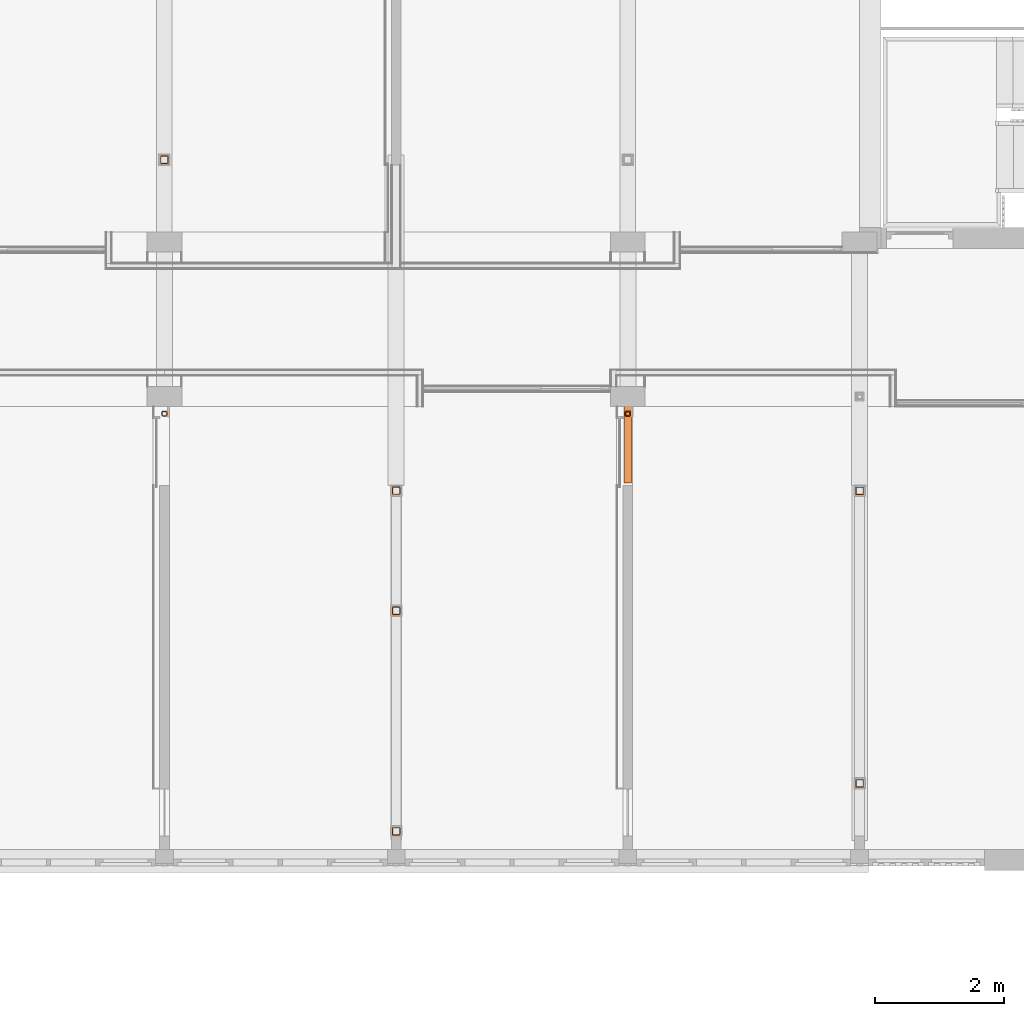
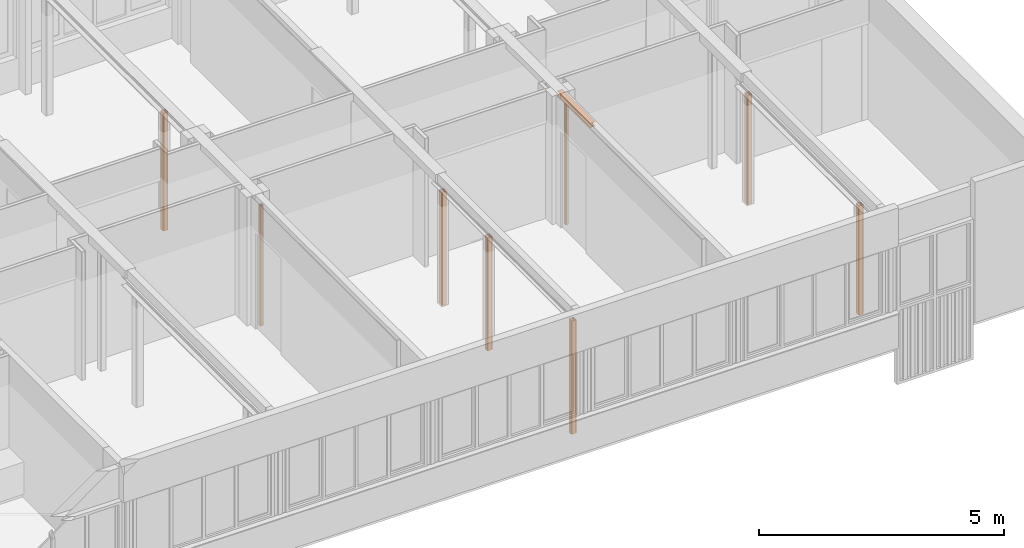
# One storey, part 106 of 117: 9 proxies.
"""IFC2X3 building model written with IfcOpenShell, lengths in millimetres."""

from ifc_helpers import new_model, entity, si_unit, converted_unit, derived_unit, money_unit, direction, frame, origin_with_axes, place, context, subcontext, project, spatial, faceted_brep, source, transform, mapped, material, type_object, type_shapes, element, save


model = new_model("IFC2X3")

# Units and contexts
model_context = context("Model", 3, precision=0.01, world=origin_with_axes(), true_north=direction((0.0, 1.0)))
body_context = subcontext(model_context, "Body", "Model", "MODEL_VIEW")
ifc_project = project(units=[si_unit("LENGTHUNIT", "METRE", prefix="MILLI"), si_unit("AREAUNIT", "SQUARE_METRE"), si_unit("VOLUMEUNIT", "CUBIC_METRE"), converted_unit("PLANEANGLEUNIT", "DEGREE", entity("IfcPlaneAngleMeasure", 0.0174532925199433), si_unit("PLANEANGLEUNIT", "RADIAN"), dimensions=[0, 0, 0, 0, 0, 0, 0]), money_unit("EUR"), converted_unit("TIMEUNIT", "Year", entity("IfcTimeMeasure", 31557600.0), si_unit("TIMEUNIT", "SECOND"), dimensions=[0, 0, 1, 0, 0, 0, 0]), si_unit("MASSUNIT", "GRAM", prefix="KILO"), si_unit("THERMODYNAMICTEMPERATUREUNIT", "DEGREE_CELSIUS"), si_unit("LUMINOUSINTENSITYUNIT", "LUMEN"), si_unit("ENERGYUNIT", "JOULE", prefix="MEGA"), derived_unit("THERMALCONDUCTANCEUNIT", [(si_unit("POWERUNIT", "WATT"), 1), (si_unit("LENGTHUNIT", "METRE"), -1), (si_unit("THERMODYNAMICTEMPERATUREUNIT", "KELVIN"), -1)]), derived_unit("SPECIFICHEATCAPACITYUNIT", [(si_unit("ENERGYUNIT", "JOULE"), 1), (si_unit("MASSUNIT", "GRAM", prefix="KILO"), -1), (si_unit("THERMODYNAMICTEMPERATUREUNIT", "KELVIN"), -1)]), derived_unit("MASSDENSITYUNIT", [(si_unit("MASSUNIT", "GRAM", prefix="KILO"), 1), (si_unit("VOLUMEUNIT", "CUBIC_METRE"), -1)])], contexts=[model_context])

# Site, building, storey
site_placement = place(None, origin_with_axes())
site = spatial("IfcSite", under=ifc_project, at=site_placement, Name="Site", CompositionType="ELEMENT")
building_placement = place(site_placement, origin_with_axes())
building = spatial("IfcBuilding", under=site, at=building_placement, Name="Naam gebouw", CompositionType="ELEMENT")
storey_placement = place(building_placement, frame((0.0, 0.0, 4150.0), z_axis=(0.0, 0.0, 1.0), x_axis=(1.0, 0.0, 0.0)))
storey = spatial("IfcBuildingStorey", under=building, at=storey_placement, Name="1e verdieping N", CompositionType="ELEMENT", Elevation=4150.0)

# Proxies
ifc_material = material(Name="Metaal - Staal AFW")
building_element_proxy_type_1 = type_object("IfcBuildingElementProxyType", Name="Buis vk warmgew kolom 27", PredefinedType="NOTDEFINED")
shared_shape_1 = source(origin_with_axes(), body_context, "Body", "Brep", [
    faceted_brep([(24.0, -40.0, 0.0), (24.0, -40.0, 3000.0), (-24.0, -40.0, 3000.0), (-24.0, -40.0, 0.0), (35.31370849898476, -35.31370849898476, 0.0), (35.31370849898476, -35.31370849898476, 3000.0), (40.0, -24.0, 3000.0), (40.00000000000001, 24.0, 3000.0), (35.31370849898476, 35.31370849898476, 3000.0), (24.0, 40.0, 3000.0), (-24.0, 40.00000000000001, 3000.0), (-35.31370849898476, 35.31370849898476, 3000.0), (-40.0, 24.0, 3000.0), (-40.0, -24.0, 3000.0), (-35.31370849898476, -35.31370849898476, 3000.0), (24.0, -32.0, 3000.0), (-24.0, -32.0, 3000.0), (-29.65685424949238, -29.65685424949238, 3000.0), (-32.0, -24.0, 3000.0), (-32.0, 24.0, 3000.0), (-29.65685424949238, 29.65685424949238, 3000.0), (-24.0, 32.0, 3000.0), (24.0, 32.0, 3000.0), (29.65685424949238, 29.65685424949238, 3000.0), (32.0, 24.0, 3000.0), (32.0, -24.0, 3000.0), (29.65685424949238, -29.65685424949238, 3000.0), (-35.31370849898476, -35.31370849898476, 0.0), (-40.0, -24.0, 0.0), (-40.0, 24.0, 0.0), (-35.31370849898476, 35.31370849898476, 0.0), (-24.0, 40.00000000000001, 0.0), (24.0, 40.0, 0.0), (35.31370849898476, 35.31370849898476, 0.0), (40.00000000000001, 24.0, 0.0), (40.0, -24.0, 0.0), (24.0, -32.0, 0.0), (29.65685424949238, -29.65685424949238, 0.0), (32.0, -24.0, 0.0), (32.0, 24.0, 0.0), (29.65685424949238, 29.65685424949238, 0.0), (24.0, 32.0, 0.0), (-24.0, 32.0, 0.0), (-29.65685424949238, 29.65685424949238, 0.0), (-32.0, 24.0, 0.0), (-32.0, -24.0, 0.0), (-29.65685424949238, -29.65685424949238, 0.0), (-24.0, -32.0, 0.0)], [[[0, 1, 2, 3]], [[4, 5, 1, 0]], [[1, 5, 6, 7, 8, 9, 10, 11, 12, 13, 14, 2], [15, 16, 17, 18, 19, 20, 21, 22, 23, 24, 25, 26]], [[3, 2, 14, 27]], [[0, 3, 27, 28, 29, 30, 31, 32, 33, 34, 35, 4], [36, 37, 38, 39, 40, 41, 42, 43, 44, 45, 46, 47]], [[35, 6, 5, 4]], [[34, 7, 6, 35]], [[33, 8, 7, 34]], [[32, 9, 8, 33]], [[31, 10, 9, 32]], [[30, 11, 10, 31]], [[29, 12, 11, 30]], [[28, 13, 12, 29]], [[27, 14, 13, 28]], [[47, 16, 15, 36]], [[46, 17, 16, 47]], [[45, 18, 17, 46]], [[44, 19, 18, 45]], [[43, 20, 19, 44]], [[42, 21, 20, 43]], [[41, 22, 21, 42]], [[40, 23, 22, 41]], [[39, 24, 23, 40]], [[38, 25, 24, 39]], [[37, 26, 25, 38]], [[36, 15, 26, 37]]]),
])
for number, where, z_axis, x_axis, name in (
    (1, (50399.99999999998, 17760.91242510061, 0.0), (0.0, 0.0, 1.0), (0.0, -1.0, 0.0), "_Boom-x"),
    (2, (43199.99999999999, 17760.91242510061, 0.0), (0.0, 0.0, 1.0), (0.0, -1.0, 0.0), "_Boom-x"),
):
    element("IfcBuildingElementProxy", number, at=place(storey_placement, frame(where, z_axis=z_axis, x_axis=x_axis)), inside=storey, type_object=building_element_proxy_type_1, material=ifc_material, Name=name, context=body_context, shape_type="MappedRepresentation", body=[
        mapped(shared_shape_1, transform((0.0, 0.0, 0.0))),
    ])
shared_shape_2 = source(origin_with_axes(), body_context, "Body", "Brep", [
    faceted_brep([(47.4, -60.0, 0.0), (47.4, -60.0, 2720.0), (-47.4, -60.0, 2720.0), (-47.4, -60.0, 0.0), (56.3095454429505, -56.3095454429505, 0.0), (56.3095454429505, -56.3095454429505, 2720.0), (60.0, -47.4, 2720.0), (60.0, 47.4, 2720.0), (56.3095454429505, 56.3095454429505, 2720.0), (47.4, 60.0, 2720.0), (-47.4, 60.0, 2720.0), (-56.3095454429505, 56.3095454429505, 2720.0), (-60.0, 47.4, 2720.0), (-60.0, -47.4, 2720.0), (-56.3095454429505, -56.3095454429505, 2720.0), (47.4, -53.7, 2720.0), (-47.4, -53.7, 2720.0), (-51.85477272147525, -51.85477272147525, 2720.0), (-53.7, -47.4, 2720.0), (-53.7, 47.4, 2720.0), (-51.85477272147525, 51.85477272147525, 2720.0), (-47.4, 53.7, 2720.0), (47.4, 53.7, 2720.0), (51.85477272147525, 51.85477272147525, 2720.0), (53.7, 47.4, 2720.0), (53.7, -47.4, 2720.0), (51.85477272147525, -51.85477272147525, 2720.0), (-56.3095454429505, -56.3095454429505, 0.0), (-60.0, -47.4, 0.0), (-60.0, 47.4, 0.0), (-56.3095454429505, 56.3095454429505, 0.0), (-47.4, 60.0, 0.0), (47.4, 60.0, 0.0), (56.3095454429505, 56.3095454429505, 0.0), (60.0, 47.4, 0.0), (60.0, -47.4, 0.0), (47.4, -53.7, 0.0), (51.85477272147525, -51.85477272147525, 0.0), (53.7, -47.4, 0.0), (53.7, 47.4, 0.0), (51.85477272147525, 51.85477272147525, 0.0), (47.4, 53.7, 0.0), (-47.4, 53.7, 0.0), (-51.85477272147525, 51.85477272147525, 0.0), (-53.7, 47.4, 0.0), (-53.7, -47.4, 0.0), (-51.85477272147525, -51.85477272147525, 0.0), (-47.4, -53.7, 0.0)], [[[0, 1, 2, 3]], [[4, 5, 1, 0]], [[1, 5, 6, 7, 8, 9, 10, 11, 12, 13, 14, 2], [15, 16, 17, 18, 19, 20, 21, 22, 23, 24, 25, 26]], [[3, 2, 14, 27]], [[0, 3, 27, 28, 29, 30, 31, 32, 33, 34, 35, 4], [36, 37, 38, 39, 40, 41, 42, 43, 44, 45, 46, 47]], [[35, 6, 5, 4]], [[34, 7, 6, 35]], [[33, 8, 7, 34]], [[32, 9, 8, 33]], [[31, 10, 9, 32]], [[30, 11, 10, 31]], [[29, 12, 11, 30]], [[28, 13, 12, 29]], [[27, 14, 13, 28]], [[47, 16, 15, 36]], [[46, 17, 16, 47]], [[45, 18, 17, 46]], [[44, 19, 18, 45]], [[43, 20, 19, 44]], [[42, 21, 20, 43]], [[41, 22, 21, 42]], [[40, 23, 22, 41]], [[39, 24, 23, 40]], [[38, 25, 24, 39]], [[37, 26, 25, 38]], [[36, 15, 26, 37]]]),
])
for number, where, z_axis, x_axis, name in (
    (3, (54000.00000000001, 12015.91242510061, 0.0), (0.0, 0.0, 1.0), (0.0, -1.0, 0.0), "_Boom-x"),
    (4, (54000.0, 16560.91242510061, 0.0), (0.0, 0.0, 1.0), (0.0, -1.0, 0.0), "_Boom-x"),
):
    element("IfcBuildingElementProxy", number, at=place(storey_placement, frame(where, z_axis=z_axis, x_axis=x_axis)), inside=storey, type_object=building_element_proxy_type_1, material=ifc_material, Name=name, context=body_context, shape_type="MappedRepresentation", body=[
        mapped(shared_shape_2, transform((0.0, 0.0, 0.0))),
    ])
shared_shape_3 = source(origin_with_axes(), body_context, "Body", "Brep", [
    faceted_brep([(47.4, -60.0, 0.0), (47.4, -60.0, 2940.000000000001), (-47.4, -60.0, 2940.000000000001), (-47.4, -60.0, 0.0), (56.3095454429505, -56.3095454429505, 0.0), (56.3095454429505, -56.3095454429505, 2940.000000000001), (60.0, -47.4, 2940.000000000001), (60.0, 47.4, 2940.000000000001), (56.3095454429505, 56.3095454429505, 2940.000000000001), (47.4, 60.0, 2940.000000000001), (-47.4, 60.0, 2940.000000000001), (-56.3095454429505, 56.3095454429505, 2940.000000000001), (-60.0, 47.4, 2940.000000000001), (-60.0, -47.4, 2940.000000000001), (-56.3095454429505, -56.3095454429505, 2940.000000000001), (47.4, -53.7, 2940.000000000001), (-47.4, -53.7, 2940.000000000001), (-51.85477272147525, -51.85477272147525, 2940.000000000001), (-53.7, -47.4, 2940.000000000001), (-53.7, 47.4, 2940.000000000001), (-51.85477272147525, 51.85477272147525, 2940.000000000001), (-47.4, 53.7, 2940.000000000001), (47.4, 53.7, 2940.000000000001), (51.85477272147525, 51.85477272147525, 2940.000000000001), (53.7, 47.4, 2940.000000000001), (53.7, -47.4, 2940.000000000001), (51.85477272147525, -51.85477272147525, 2940.000000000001), (-56.3095454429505, -56.3095454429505, 0.0), (-60.0, -47.4, 0.0), (-60.0, 47.4, 0.0), (-56.3095454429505, 56.3095454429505, 0.0), (-47.4, 60.0, 0.0), (47.4, 60.0, 0.0), (56.3095454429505, 56.3095454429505, 0.0), (60.0, 47.4, 0.0), (60.0, -47.4, 0.0), (47.4, -53.7, 0.0), (51.85477272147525, -51.85477272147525, 0.0), (53.7, -47.4, 0.0), (53.7, 47.4, 0.0), (51.85477272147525, 51.85477272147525, 0.0), (47.4, 53.7, 0.0), (-47.4, 53.7, 0.0), (-51.85477272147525, 51.85477272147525, 0.0), (-53.7, 47.4, 0.0), (-53.7, -47.4, 0.0), (-51.85477272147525, -51.85477272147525, 0.0), (-47.4, -53.7, 0.0)], [[[0, 1, 2, 3]], [[4, 5, 1, 0]], [[1, 5, 6, 7, 8, 9, 10, 11, 12, 13, 14, 2], [15, 16, 17, 18, 19, 20, 21, 22, 23, 24, 25, 26]], [[3, 2, 14, 27]], [[0, 3, 27, 28, 29, 30, 31, 32, 33, 34, 35, 4], [36, 37, 38, 39, 40, 41, 42, 43, 44, 45, 46, 47]], [[35, 6, 5, 4]], [[34, 7, 6, 35]], [[33, 8, 7, 34]], [[32, 9, 8, 33]], [[31, 10, 9, 32]], [[30, 11, 10, 31]], [[29, 12, 11, 30]], [[28, 13, 12, 29]], [[27, 14, 13, 28]], [[47, 16, 15, 36]], [[46, 17, 16, 47]], [[45, 18, 17, 46]], [[44, 19, 18, 45]], [[43, 20, 19, 44]], [[42, 21, 20, 43]], [[41, 22, 21, 42]], [[40, 23, 22, 41]], [[39, 24, 23, 40]], [[38, 25, 24, 39]], [[37, 26, 25, 38]], [[36, 15, 26, 37]]]),
])
proxy_1_placement = place(storey_placement, frame((43199.99999999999, 21705.91242510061, 0.0), z_axis=(0.0, 0.0, 1.0), x_axis=(0.0, -1.0, 0.0)))
element("IfcBuildingElementProxy", 5, at=proxy_1_placement, inside=storey, type_object=building_element_proxy_type_1, material=ifc_material, Name="_Boom-x", context=body_context, shape_type="MappedRepresentation", body=[
    mapped(shared_shape_3, transform((0.0, 0.0, 0.0))),
])
building_element_proxy_type_2 = type_object("IfcBuildingElementProxyType", Name="HEA balk 27", PredefinedType="NOTDEFINED")
shared_shape_4 = source(origin_with_axes(), body_context, "Body", "Brep", [
    faceted_brep([(0.0, -60.0, 0.0), (-1339.999999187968, -60.00000000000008, 0.0), (-1339.999999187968, 59.99999999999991, 0.0), (0.0, 60.0, 0.0), (0.0, -60.0, 8.0), (-1339.999999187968, -60.00000000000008, 8.000000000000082), (-1339.999999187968, -14.50000000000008, 8.000000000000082), (-1339.999999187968, -8.500000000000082, 9.607695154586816), (-1339.999999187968, -4.107695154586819, 14.00000000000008), (-1339.999999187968, -2.500000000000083, 20.00000000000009), (-1339.999999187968, -2.500000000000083, 94.0000000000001), (-1339.999999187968, -4.107695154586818, 100.0000000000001), (-1339.999999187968, -8.500000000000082, 104.3923048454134), (-1339.999999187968, -14.50000000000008, 106.0000000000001), (-1339.999999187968, -60.00000000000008, 106.0000000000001), (-1339.999999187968, -60.00000000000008, 114.0000000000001), (-1339.999999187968, 59.99999999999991, 114.0000000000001), (-1339.999999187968, 59.99999999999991, 106.0000000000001), (-1339.999999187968, 14.49999999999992, 106.0000000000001), (-1339.999999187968, 8.499999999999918, 104.3923048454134), (-1339.999999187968, 4.107695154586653, 100.0000000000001), (-1339.999999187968, 2.499999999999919, 94.0000000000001), (-1339.999999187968, 2.499999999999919, 20.00000000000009), (-1339.999999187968, 4.107695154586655, 14.00000000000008), (-1339.999999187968, 8.499999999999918, 9.607695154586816), (-1339.999999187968, 14.49999999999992, 8.000000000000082), (-1339.999999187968, 59.99999999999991, 8.000000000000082), (0.0, 60.0, 8.0), (0.0, 14.5, 8.0), (0.0, 8.5, 9.607695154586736), (0.0, 4.107695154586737, 14.0), (0.0, 2.5, 20.0), (0.0, 2.5, 94.00000000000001), (0.0, 4.107695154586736, 100.0), (0.0, 8.5, 104.3923048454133), (0.0, 14.5, 106.0), (0.0, 60.0, 106.0), (0.0, 60.0, 114.0), (0.0, -60.0, 114.0), (0.0, -60.0, 106.0), (0.0, -14.5, 106.0), (0.0, -8.5, 104.3923048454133), (0.0, -4.107695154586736, 100.0), (0.0, -2.5, 94.00000000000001), (0.0, -2.5, 20.0), (0.0, -4.107695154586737, 14.0), (0.0, -8.5, 9.607695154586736), (0.0, -14.5, 8.0)], [[[0, 1, 2, 3]], [[4, 5, 1, 0]], [[1, 5, 6, 7, 8, 9, 10, 11, 12, 13, 14, 15, 16, 17, 18, 19, 20, 21, 22, 23, 24, 25, 26, 2]], [[3, 2, 26, 27]], [[0, 3, 27, 28, 29, 30, 31, 32, 33, 34, 35, 36, 37, 38, 39, 40, 41, 42, 43, 44, 45, 46, 47, 4]], [[47, 6, 5, 4]], [[46, 7, 6, 47]], [[45, 8, 7, 46]], [[44, 9, 8, 45]], [[43, 10, 9, 44]], [[42, 11, 10, 43]], [[41, 12, 11, 42]], [[40, 13, 12, 41]], [[39, 14, 13, 40]], [[38, 15, 14, 39]], [[37, 16, 15, 38]], [[36, 17, 16, 37]], [[35, 18, 17, 36]], [[34, 19, 18, 35]], [[33, 20, 19, 34]], [[32, 21, 20, 33]], [[31, 22, 21, 32]], [[30, 23, 22, 31]], [[29, 24, 23, 30]], [[28, 25, 24, 29]], [[27, 26, 25, 28]]]),
])
type_shapes(building_element_proxy_type_2, [shared_shape_4])
proxy_2_placement = place(storey_placement, frame((50400.0, 16680.91242591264, 3066.0), z_axis=(0.0, 0.0, 1.0), x_axis=(0.0, -1.0, 0.0)))
element("IfcBuildingElementProxy", 6, at=proxy_2_placement, inside=storey, type_object=building_element_proxy_type_2, material=ifc_material, Name="_Boom-x", context=body_context, shape_type="MappedRepresentation", body=[
    mapped(shared_shape_4, transform((0.0, 0.0, 0.0))),
])
shared_shape_5 = source(origin_with_axes(), body_context, "Body", "Brep", [
    faceted_brep([(47.4, -60.0, 0.0), (47.4, -60.0, 2820.0), (-47.4, -60.0, 2820.0), (-47.4, -60.0, 0.0), (56.3095454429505, -56.3095454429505, 0.0), (56.3095454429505, -56.3095454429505, 2820.0), (60.0, -47.4, 2820.0), (60.0, 47.4, 2820.0), (56.3095454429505, 56.3095454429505, 2820.0), (47.4, 60.0, 2820.0), (-47.4, 60.0, 2820.0), (-56.3095454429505, 56.3095454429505, 2820.0), (-60.0, 47.4, 2820.0), (-60.0, -47.4, 2820.0), (-56.3095454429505, -56.3095454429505, 2820.0), (47.4, -53.7, 2820.0), (-47.4, -53.7, 2820.0), (-51.85477272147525, -51.85477272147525, 2820.0), (-53.7, -47.4, 2820.0), (-53.7, 47.4, 2820.0), (-51.85477272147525, 51.85477272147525, 2820.0), (-47.4, 53.7, 2820.0), (47.4, 53.7, 2820.0), (51.85477272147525, 51.85477272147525, 2820.0), (53.7, 47.4, 2820.0), (53.7, -47.4, 2820.0), (51.85477272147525, -51.85477272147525, 2820.0), (-56.3095454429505, -56.3095454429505, 0.0), (-60.0, -47.4, 0.0), (-60.0, 47.4, 0.0), (-56.3095454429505, 56.3095454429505, 0.0), (-47.4, 60.0, 0.0), (47.4, 60.0, 0.0), (56.3095454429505, 56.3095454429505, 0.0), (60.0, 47.4, 0.0), (60.0, -47.4, 0.0), (47.4, -53.7, 0.0), (51.85477272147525, -51.85477272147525, 0.0), (53.7, -47.4, 0.0), (53.7, 47.4, 0.0), (51.85477272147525, 51.85477272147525, 0.0), (47.4, 53.7, 0.0), (-47.4, 53.7, 0.0), (-51.85477272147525, 51.85477272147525, 0.0), (-53.7, 47.4, 0.0), (-53.7, -47.4, 0.0), (-51.85477272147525, -51.85477272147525, 0.0), (-47.4, -53.7, 0.0)], [[[0, 1, 2, 3]], [[4, 5, 1, 0]], [[1, 5, 6, 7, 8, 9, 10, 11, 12, 13, 14, 2], [15, 16, 17, 18, 19, 20, 21, 22, 23, 24, 25, 26]], [[3, 2, 14, 27]], [[0, 3, 27, 28, 29, 30, 31, 32, 33, 34, 35, 4], [36, 37, 38, 39, 40, 41, 42, 43, 44, 45, 46, 47]], [[35, 6, 5, 4]], [[34, 7, 6, 35]], [[33, 8, 7, 34]], [[32, 9, 8, 33]], [[31, 10, 9, 32]], [[30, 11, 10, 31]], [[29, 12, 11, 30]], [[28, 13, 12, 29]], [[27, 14, 13, 28]], [[47, 16, 15, 36]], [[46, 17, 16, 47]], [[45, 18, 17, 46]], [[44, 19, 18, 45]], [[43, 20, 19, 44]], [[42, 21, 20, 43]], [[41, 22, 21, 42]], [[40, 23, 22, 41]], [[39, 24, 23, 40]], [[38, 25, 24, 39]], [[37, 26, 25, 38]], [[36, 15, 26, 37]]]),
])
type_shapes(building_element_proxy_type_1, [shared_shape_1, shared_shape_2, shared_shape_3, shared_shape_5])
for number, where, z_axis, x_axis, name in (
    (7, (46800.00000000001, 11270.91242510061, 0.0), (0.0, 0.0, 1.0), (0.0, -1.0, 0.0), "_Boom-x"),
    (8, (46800.00000000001, 16565.91242510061, 0.0), (0.0, 0.0, 1.0), (0.0, -1.0, 0.0), "_Boom-x"),
    (9, (46800.00000000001, 14699.84204585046, 0.0), (0.0, 0.0, 1.0), (0.0, -1.0, 0.0), "_Boom-x"),
):
    element("IfcBuildingElementProxy", number, at=place(storey_placement, frame(where, z_axis=z_axis, x_axis=x_axis)), inside=storey, type_object=building_element_proxy_type_1, material=ifc_material, Name=name, context=body_context, shape_type="MappedRepresentation", body=[
        mapped(shared_shape_5, transform((0.0, 0.0, 0.0))),
    ])

save(model, "model.ifc")
